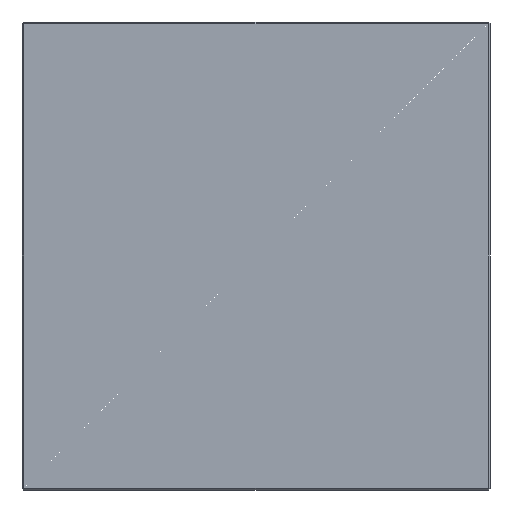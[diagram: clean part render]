
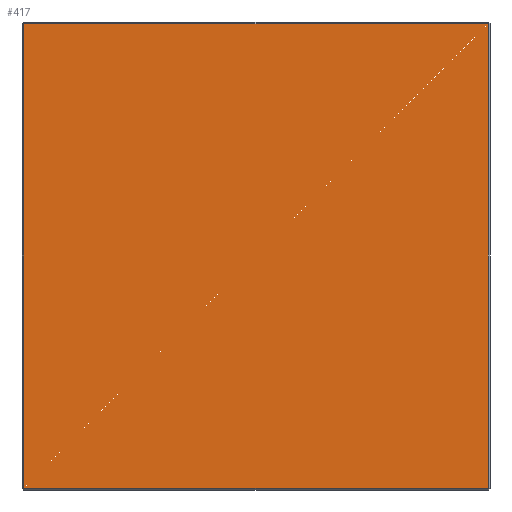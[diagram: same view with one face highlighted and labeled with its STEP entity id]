
A CAD part, front view. The second image highlights one B-rep face of the part: STEP entity #417.
In plain terms, the highlighted planar face has unit normal (0, -1, 0).
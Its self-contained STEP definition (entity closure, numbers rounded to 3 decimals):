
#2 = DIRECTION ( 'NONE',  ( 0., 1., 0. ) ) ;
#15 = DIRECTION ( 'NONE',  ( 0., 0., 1. ) ) ;
#22 = CARTESIAN_POINT ( 'NONE',  ( 0., 0., -122. ) ) ;
#33 = LINE ( 'NONE', #22, #360 ) ;
#52 = EDGE_CURVE ( 'NONE', #129, #231, #448, .T. ) ;
#72 = AXIS2_PLACEMENT_3D ( 'NONE', #262, #2, #215 ) ;
#77 = FACE_OUTER_BOUND ( 'NONE', #535, .T. ) ;
#88 = VERTEX_POINT ( 'NONE', #148 ) ;
#124 = VECTOR ( 'NONE', #196, 1000. ) ;
#129 = VERTEX_POINT ( 'NONE', #154 ) ;
#148 = CARTESIAN_POINT ( 'NONE',  ( -122., 0., 122. ) ) ;
#154 = CARTESIAN_POINT ( 'NONE',  ( 122., 0., -122. ) ) ;
#161 = CARTESIAN_POINT ( 'NONE',  ( -122., 0., 0. ) ) ;
#168 = ORIENTED_EDGE ( 'NONE', *, *, #52, .T. ) ;
#181 = EDGE_CURVE ( 'NONE', #88, #297, #510, .T. ) ;
#196 = DIRECTION ( 'NONE',  ( -1., 0., 0. ) ) ;
#215 = DIRECTION ( 'NONE',  ( 0., 0., 1. ) ) ;
#217 = ORIENTED_EDGE ( 'NONE', *, *, #181, .T. ) ;
#222 = PLANE ( 'NONE',  #72 ) ;
#231 = VERTEX_POINT ( 'NONE', #589 ) ;
#251 = VECTOR ( 'NONE', #406, 1000. ) ;
#262 = CARTESIAN_POINT ( 'NONE',  ( 0., 0., 0. ) ) ;
#284 = CARTESIAN_POINT ( 'NONE',  ( 122., 0., 0. ) ) ;
#297 = VERTEX_POINT ( 'NONE', #343 ) ;
#317 = ORIENTED_EDGE ( 'NONE', *, *, #479, .T. ) ;
#319 = DIRECTION ( 'NONE',  ( 1., 0., 0. ) ) ;
#322 = VECTOR ( 'NONE', #15, 1000. ) ;
#343 = CARTESIAN_POINT ( 'NONE',  ( -122., 0., -122. ) ) ;
#359 = CARTESIAN_POINT ( 'NONE',  ( 0., 0., 122. ) ) ;
#360 = VECTOR ( 'NONE', #319, 1000. ) ;
#393 = LINE ( 'NONE', #359, #124 ) ;
#406 = DIRECTION ( 'NONE',  ( 0., 0., -1. ) ) ;
#417 = ADVANCED_FACE ( 'NONE', ( #77 ), #222, .F. ) ;
#423 = ORIENTED_EDGE ( 'NONE', *, *, #550, .T. ) ;
#448 = LINE ( 'NONE', #284, #322 ) ;
#479 = EDGE_CURVE ( 'NONE', #297, #129, #33, .T. ) ;
#510 = LINE ( 'NONE', #161, #251 ) ;
#535 = EDGE_LOOP ( 'NONE', ( #168, #423, #217, #317 ) ) ;
#550 = EDGE_CURVE ( 'NONE', #231, #88, #393, .T. ) ;
#589 = CARTESIAN_POINT ( 'NONE',  ( 122., 0., 122. ) ) ;
